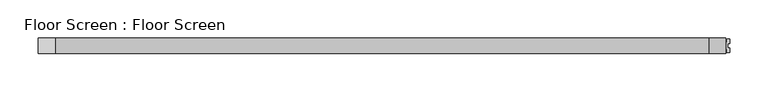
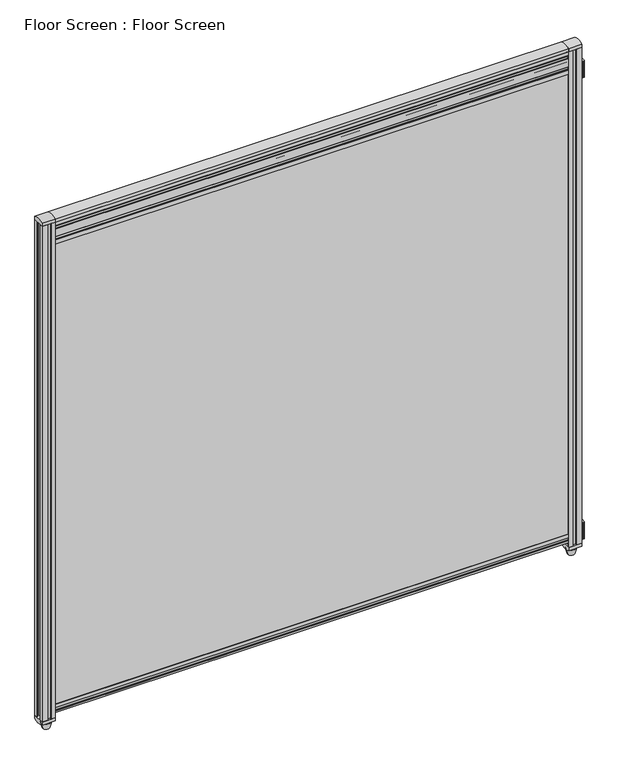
"""IFC4 building model written with IfcOpenShell, lengths in millimetres: furniture geometry, Floor Screen : Floor Screen."""

from ifc_helpers import new_model, si_unit, point, frame, frame_2d, origin, place, context, project, spatial, polyline, circle_curve, trimmed, segment, composite_curve, outline, extrude, source, transform, mapped, element, save
from ifc_brep_helpers import plane_surface, cylinder_surface, revolved_surface, advanced_brep


def floor_screen_floor_screen_8b4445b1(model_context):
    return source(origin(), model_context, "Body", "SolidModel", [
        extrude(outline(polyline([(2.9999997, 851.5000011), (7.4999998, 851.5000011), (7.4999998, 41.0000047), (1.4999993, 41.0000047), (1.4999993, 56.0000021), (-1.5000004, 56.0000021), (-1.5000004, 41.0000047), (-7.5000007, 41.0000047), (-7.5000007, 851.5000011), (-3.0000003, 851.5000011), (-3.0000003, 828.4786457), (2.9999997, 828.4786457), (2.9999997, 851.5000011)])), frame((-427.9999984, 0.0, 0.0), z_axis=(1.0, 0.0, 0.0), x_axis=(0.0, 1.0, 0.0)), (0.0, 0.0, 1.0), 855.9999968),
        advanced_brep(
        [(432.111473, 0.0, 0.0), (443.0885538, 0.0, 0.0), (437.6000134, 0.0, 0.0), (437.6000134, 0.0, 34.0000004), (440.6000134, 0.0, 34.0000004), (434.6000134, 0.0, 34.0000004), (440.6000134, 0.0, 10.9999997), (434.6000134, 0.0, 10.9999997), (446.1000132, 0.0, 10.9999997), (429.1000136, 0.0, 10.9999997)],
        [
            (0, 1, circle_curve(frame((437.6000134, 0.0, 0.0), z_axis=(0.0, 0.0, -1.0), x_axis=(1.0, 0.0, 0.0)), 5.4885404)),
            (1, 2),
            (2, 0),
            (1, 0, circle_curve(frame((437.6000134, 0.0, 0.0), z_axis=(0.0, 0.0, -1.0), x_axis=(1.0, 0.0, 0.0)), 5.4885404)),
            (3, 4),
            (4, 5, circle_curve(frame((437.6000134, 0.0, 34.0000004), z_axis=(0.0, 0.0, 1.0), x_axis=(1.0, 0.0, 0.0)), 3.0)),
            (5, 3),
            (5, 4, circle_curve(frame((437.6000134, 0.0, 34.0000004), z_axis=(0.0, 0.0, 1.0), x_axis=(1.0, 0.0, 0.0)), 3.0)),
            (4, 6),
            (6, 7, circle_curve(frame((437.6000134, 0.0, 10.9999997), z_axis=(0.0, 0.0, 1.0), x_axis=(1.0, 0.0, 0.0)), 3.0)),
            (7, 5),
            (7, 6, circle_curve(frame((437.6000134, 0.0, 10.9999997), z_axis=(0.0, 0.0, 1.0), x_axis=(1.0, 0.0, 0.0)), 3.0)),
            (6, 8),
            (8, 9, circle_curve(frame((437.6000134, 0.0, 10.9999997), z_axis=(0.0, 0.0, 1.0), x_axis=(1.0, 0.0, 0.0)), 8.4999998)),
            (9, 7),
            (9, 8, circle_curve(frame((437.6000134, 0.0, 10.9999997), z_axis=(0.0, 0.0, 1.0), x_axis=(1.0, 0.0, 0.0)), 8.4999998)),
            (8, 1),
            (0, 9),
        ],
        [
            plane_surface(frame((437.6000134, 0.0, 0.0), z_axis=(0.0, 0.0, -1.0), x_axis=(1.0, 0.0, 0.0))),
            plane_surface(frame((437.6000134, 0.0, 34.0000004), z_axis=(0.0, 0.0, 1.0), x_axis=(1.0, 0.0, 0.0))),
            cylinder_surface(frame((437.6000134, 0.0, 34.0000004), z_axis=(0.0, 0.0, 1.0), x_axis=(1.0, 0.0, 0.0)), 3.0),
            plane_surface(frame((437.6000134, 0.0, 10.9999997), z_axis=(0.0, 0.0, 1.0), x_axis=(1.0, 0.0, 0.0))),
            revolved_surface(polyline([(443.0885538, 0.0, 0.0), (446.1000132, 0.0, 10.9999997)]), (437.6000134, 0.0, 34.0000004), (0.0, 0.0, 1.0)),
        ],
        [
            (0, [[1, 2, 3]]),
            (0, [[4, -3, -2]]),
            (1, [[5, 6, 7]]),
            (1, [[-7, 8, -5]]),
            (2, [[-6, 9, 10, 11]]),
            (2, [[-8, -11, 12, -9]]),
            (3, [[-10, 13, 14, 15]]),
            (3, [[-12, -15, 16, -13]]),
            (4, [[-14, 17, -1, 18]]),
            (4, [[-16, -18, -4, -17]]),
        ],
    ),
        advanced_brep(
        [(-437.6000134, 0.0, 0.0), (-443.0885538, 0.0, 0.0), (-432.111473, 0.0, 0.0), (-434.6000134, 0.0, 34.0000004), (-440.6000134, 0.0, 34.0000004), (-437.6000134, 0.0, 34.0000004), (-434.6000134, 0.0, 10.9999997), (-440.6000134, 0.0, 10.9999997), (-429.1000136, 0.0, 10.9999997), (-446.1000132, 0.0, 10.9999997)],
        [
            (0, 1),
            (1, 2, circle_curve(frame((-437.6000134, 0.0, 0.0), z_axis=(0.0, 0.0, -1.0), x_axis=(-1.0, 0.0, 0.0)), 5.4885404)),
            (2, 0),
            (2, 1, circle_curve(frame((-437.6000134, 0.0, 0.0), z_axis=(0.0, 0.0, -1.0), x_axis=(-1.0, 0.0, 0.0)), 5.4885404)),
            (3, 4, circle_curve(frame((-437.6000134, 0.0, 34.0000004), z_axis=(0.0, 0.0, 1.0), x_axis=(-1.0, 0.0, 0.0)), 3.0)),
            (4, 5),
            (5, 3),
            (4, 3, circle_curve(frame((-437.6000134, 0.0, 34.0000004), z_axis=(0.0, 0.0, 1.0), x_axis=(-1.0, 0.0, 0.0)), 3.0)),
            (6, 7, circle_curve(frame((-437.6000134, 0.0, 10.9999997), z_axis=(0.0, 0.0, 1.0), x_axis=(-1.0, 0.0, 0.0)), 3.0)),
            (7, 4),
            (3, 6),
            (7, 6, circle_curve(frame((-437.6000134, 0.0, 10.9999997), z_axis=(0.0, 0.0, 1.0), x_axis=(-1.0, 0.0, 0.0)), 3.0)),
            (8, 9, circle_curve(frame((-437.6000134, 0.0, 10.9999997), z_axis=(0.0, 0.0, 1.0), x_axis=(-1.0, 0.0, 0.0)), 8.4999998)),
            (9, 7),
            (6, 8),
            (9, 8, circle_curve(frame((-437.6000134, 0.0, 10.9999997), z_axis=(0.0, 0.0, 1.0), x_axis=(-1.0, 0.0, 0.0)), 8.4999998)),
            (1, 9),
            (8, 2),
        ],
        [
            plane_surface(frame((-437.6000134, 0.0, 0.0), z_axis=(0.0, 0.0, -1.0), x_axis=(-1.0, 0.0, 0.0))),
            plane_surface(frame((-437.6000134, 0.0, 34.0000004), z_axis=(0.0, 0.0, 1.0), x_axis=(-1.0, 0.0, 0.0))),
            cylinder_surface(frame((-437.6000134, 0.0, 34.0000004), z_axis=(0.0, 0.0, -1.0), x_axis=(-1.0, 0.0, 0.0)), 3.0),
            plane_surface(frame((-437.6000134, 0.0, 10.9999997), z_axis=(0.0, 0.0, 1.0), x_axis=(-1.0, 0.0, 0.0))),
            revolved_surface(polyline([(-446.1000132, 0.0, 10.9999997), (-443.0885538, 0.0, 0.0)]), (-437.6000134, 0.0, 34.0000004), (0.0, 0.0, -1.0)),
        ],
        [
            (0, [[1, 2, 3]]),
            (0, [[-3, 4, -1]]),
            (1, [[5, 6, 7]]),
            (1, [[8, -7, -6]]),
            (2, [[9, 10, -5, 11]]),
            (2, [[12, -11, -8, -10]]),
            (3, [[13, 14, -9, 15]]),
            (3, [[16, -15, -12, -14]]),
            (4, [[-2, 17, -13, 18]]),
            (4, [[-4, -18, -16, -17]]),
        ],
    ),
        extrude(outline(composite_curve([segment(trimmed(circle_curve(frame_2d((454.2241716, -7.9589995)), 0.9758086), [point((455.1999802, -7.9589995))], [point((454.2241716, -8.934808))], False, "CARTESIAN"), True, "CONTINUOUS"), segment(polyline([(454.2241716, -8.934808), (452.4274843, -8.934808)]), True, "CONTINUOUS"), segment(trimmed(circle_curve(frame_2d((452.4274843, -7.9573148)), 0.9774932), [point((452.4274843, -8.934808))], [point((451.449991, -7.9573148))], False, "CARTESIAN"), True, "CONTINUOUS"), segment(polyline([(451.449991, -7.9573148), (451.449991, -4.4500003), (448.5500227, -4.4500003), (448.5500227, -7.9707118)]), True, "CONTINUOUS"), segment(trimmed(circle_curve(frame_2d((447.5859264, -7.9707118)), 0.9640962), [point((448.5500227, -7.9707118))], [point((447.5859264, -8.934808))], False, "CARTESIAN"), True, "CONTINUOUS"), segment(polyline([(447.5859264, -8.934808), (445.7567695, -8.934808)]), True, "CONTINUOUS"), segment(trimmed(circle_curve(frame_2d((445.7567695, -7.9780397)), 0.9567683), [point((445.7567695, -8.934808))], [point((444.8000012, -7.9780397))], False, "CARTESIAN"), True, "CONTINUOUS"), segment(polyline([(444.8000012, -7.9780397), (444.8000012, -3.0000003), (447.2968339, -3.0000003)]), True, "CONTINUOUS"), segment(trimmed(circle_curve(frame_2d((447.2968339, -2.4968383)), 0.5031619), [point((447.2968339, -3.0000003))], [point((447.7999958, -2.4968383))], True, "CARTESIAN"), True, "CONTINUOUS"), segment(polyline([(447.7999958, -2.4968383), (447.7999958, 2.4764125)]), True, "CONTINUOUS"), segment(trimmed(circle_curve(frame_2d((447.2764086, 2.4764125)), 0.5235872), [point((447.7999958, 2.4764125))], [point((447.2764086, 2.9999997))], True, "CARTESIAN"), True, "CONTINUOUS"), segment(polyline([(447.2764086, 2.9999997), (444.8000012, 2.9999997), (444.8000012, 7.9700653)]), True, "CONTINUOUS"), segment(trimmed(circle_curve(frame_2d((445.7647432, 7.9700653)), 0.964742), [point((444.8000012, 7.9700653))], [point((445.7647432, 8.9348073))], False, "CARTESIAN"), True, "CONTINUOUS"), segment(polyline([(445.7647432, 8.9348073), (447.5858723, 8.9348073)]), True, "CONTINUOUS"), segment(trimmed(circle_curve(frame_2d((447.5858723, 7.9706569)), 0.9641504), [point((447.5858723, 8.9348073))], [point((448.5500227, 7.9706569))], False, "CARTESIAN"), True, "CONTINUOUS"), segment(polyline([(448.5500227, 7.9706569), (448.5500227, 4.4499998), (451.449991, 4.4499998), (451.449991, 7.9420424)]), True, "CONTINUOUS"), segment(trimmed(circle_curve(frame_2d((452.442756, 7.9420424)), 0.9927649), [point((451.449991, 7.9420424))], [point((452.442756, 8.9348073))], False, "CARTESIAN"), True, "CONTINUOUS"), segment(polyline([(452.442756, 8.9348073), (454.2102525, 8.9348073)]), True, "CONTINUOUS"), segment(trimmed(circle_curve(frame_2d((454.2102525, 7.9450797)), 0.9897276), [point((454.2102525, 8.9348073))], [point((455.1999802, 7.9450797))], False, "CARTESIAN"), True, "CONTINUOUS"), segment(polyline([(455.1999802, 7.9450797), (455.1999802, 2.9999997), (452.7526237, 2.9999997)]), True, "CONTINUOUS"), segment(trimmed(circle_curve(frame_2d((452.7526237, 2.4473939)), 0.5526058), [point((452.7526237, 2.9999997))], [point((452.2000179, 2.4473939))], True, "CARTESIAN"), True, "CONTINUOUS"), segment(polyline([(452.2000179, 2.4473939), (452.2000179, -2.4754422)]), True, "CONTINUOUS"), segment(trimmed(circle_curve(frame_2d((452.724576, -2.4754422)), 0.524558), [point((452.2000179, -2.4754422))], [point((452.724576, -3.0000003))], True, "CARTESIAN"), True, "CONTINUOUS"), segment(polyline([(452.724576, -3.0000003), (455.1999802, -3.0000003), (455.1999802, -7.9589995)]), True, "CONTINUOUS")], self_intersect=False)), frame((0.0, 0.0, 837.0), z_axis=(0.0, 0.0, 1.0), x_axis=(1.0, 0.0, 0.0)), (0.0, 0.0, 1.0), 29.0),
        extrude(outline(composite_curve([segment(trimmed(circle_curve(frame_2d((454.2241716, -7.9589995)), 0.9758086), [point((455.1999802, -7.9589995))], [point((454.2241716, -8.934808))], False, "CARTESIAN"), True, "CONTINUOUS"), segment(polyline([(454.2241716, -8.934808), (452.4274843, -8.934808)]), True, "CONTINUOUS"), segment(trimmed(circle_curve(frame_2d((452.4274843, -7.9573148)), 0.9774932), [point((452.4274843, -8.934808))], [point((451.449991, -7.9573148))], False, "CARTESIAN"), True, "CONTINUOUS"), segment(polyline([(451.449991, -7.9573148), (451.449991, -4.4500003), (448.5500227, -4.4500003), (448.5500227, -7.9707118)]), True, "CONTINUOUS"), segment(trimmed(circle_curve(frame_2d((447.5859264, -7.9707118)), 0.9640962), [point((448.5500227, -7.9707118))], [point((447.5859264, -8.934808))], False, "CARTESIAN"), True, "CONTINUOUS"), segment(polyline([(447.5859264, -8.934808), (445.7567695, -8.934808)]), True, "CONTINUOUS"), segment(trimmed(circle_curve(frame_2d((445.7567695, -7.9780397)), 0.9567683), [point((445.7567695, -8.934808))], [point((444.8000012, -7.9780397))], False, "CARTESIAN"), True, "CONTINUOUS"), segment(polyline([(444.8000012, -7.9780397), (444.8000012, -3.0000003), (447.2968339, -3.0000003)]), True, "CONTINUOUS"), segment(trimmed(circle_curve(frame_2d((447.2968339, -2.4968383)), 0.5031619), [point((447.2968339, -3.0000003))], [point((447.7999958, -2.4968383))], True, "CARTESIAN"), True, "CONTINUOUS"), segment(polyline([(447.7999958, -2.4968383), (447.7999958, 2.4764125)]), True, "CONTINUOUS"), segment(trimmed(circle_curve(frame_2d((447.2764086, 2.4764125)), 0.5235872), [point((447.7999958, 2.4764125))], [point((447.2764086, 2.9999997))], True, "CARTESIAN"), True, "CONTINUOUS"), segment(polyline([(447.2764086, 2.9999997), (444.8000012, 2.9999997), (444.8000012, 7.9700653)]), True, "CONTINUOUS"), segment(trimmed(circle_curve(frame_2d((445.7647432, 7.9700653)), 0.964742), [point((444.8000012, 7.9700653))], [point((445.7647432, 8.9348073))], False, "CARTESIAN"), True, "CONTINUOUS"), segment(polyline([(445.7647432, 8.9348073), (447.5858723, 8.9348073)]), True, "CONTINUOUS"), segment(trimmed(circle_curve(frame_2d((447.5858723, 7.9706569)), 0.9641504), [point((447.5858723, 8.9348073))], [point((448.5500227, 7.9706569))], False, "CARTESIAN"), True, "CONTINUOUS"), segment(polyline([(448.5500227, 7.9706569), (448.5500227, 4.4499998), (451.449991, 4.4499998), (451.449991, 7.9420424)]), True, "CONTINUOUS"), segment(trimmed(circle_curve(frame_2d((452.442756, 7.9420424)), 0.9927649), [point((451.449991, 7.9420424))], [point((452.442756, 8.9348073))], False, "CARTESIAN"), True, "CONTINUOUS"), segment(polyline([(452.442756, 8.9348073), (454.2102525, 8.9348073)]), True, "CONTINUOUS"), segment(trimmed(circle_curve(frame_2d((454.2102525, 7.9450797)), 0.9897276), [point((454.2102525, 8.9348073))], [point((455.1999802, 7.9450797))], False, "CARTESIAN"), True, "CONTINUOUS"), segment(polyline([(455.1999802, 7.9450797), (455.1999802, 2.9999997), (452.7526237, 2.9999997)]), True, "CONTINUOUS"), segment(trimmed(circle_curve(frame_2d((452.7526237, 2.4473939)), 0.5526058), [point((452.7526237, 2.9999997))], [point((452.2000179, 2.4473939))], True, "CARTESIAN"), True, "CONTINUOUS"), segment(polyline([(452.2000179, 2.4473939), (452.2000179, -2.4754422)]), True, "CONTINUOUS"), segment(trimmed(circle_curve(frame_2d((452.724576, -2.4754422)), 0.524558), [point((452.2000179, -2.4754422))], [point((452.724576, -3.0000003))], True, "CARTESIAN"), True, "CONTINUOUS"), segment(polyline([(452.724576, -3.0000003), (455.1999802, -3.0000003), (455.1999802, -7.9589995)]), True, "CONTINUOUS")], self_intersect=False)), frame((0.0, 0.0, 25.0), z_axis=(0.0, 0.0, 1.0), x_axis=(1.0, 0.0, 0.0)), (0.0, 0.0, 1.0), 29.0),
        extrude(outline(composite_curve([segment(polyline([(9.1499968, 36.0000055), (7.9499769, 36.0000055), (7.9499769, 39.3000176), (2.2528409, 39.3000176)]), True, "CONTINUOUS"), segment(trimmed(circle_curve(frame_2d((0.1077675, 37.4875113)), 2.8082947), [point((2.2528409, 39.3000176))], [point((2.8960112, 37.1525251))], False, "CARTESIAN"), True, "CONTINUOUS"), segment(trimmed(circle_curve(frame_2d((1.9633241, 35.3983957)), 1.9866744), [point((2.8960112, 37.1525251))], [point((3.9499985, 35.3983957))], False, "CARTESIAN"), True, "CONTINUOUS"), segment(polyline([(3.9499985, 35.3983957), (3.9499985, 32.000043)]), True, "CONTINUOUS"), segment(trimmed(circle_curve(frame_2d((0.5724057, 30.1836157)), 3.8350412), [point((3.9499985, 32.000043))], [point((3.7920505, 28.1000063))], False, "CARTESIAN"), True, "CONTINUOUS"), segment(polyline([(3.7920505, 28.1000063), (7.9499769, 28.1000063), (7.9499769, 30.5000165), (9.1499968, 30.5000165), (9.1499968, 27.000003), (2.8499952, 27.000003), (2.8499952, 28.86563)]), True, "CONTINUOUS"), segment(trimmed(circle_curve(frame_2d((0.4891584, 30.1967785)), 2.7102595), [point((2.8499952, 28.86563))], [point((2.7499786, 31.6915022))], True, "CARTESIAN"), True, "CONTINUOUS"), segment(polyline([(2.7499786, 31.6915022), (2.7499786, 35.5623077), (1.1043975, 36.377492)]), True, "CONTINUOUS"), segment(trimmed(circle_curve(frame_2d((-9e-07, 37.5462476)), 1.6080067), [point((1.1043975, 36.377492))], [point((-1.1043986, 36.3774915))], True, "CARTESIAN"), True, "CONTINUOUS"), segment(polyline([(-1.1043986, 36.3774915), (-2.7499786, 35.5623077), (-2.7499786, 31.6915022)]), True, "CONTINUOUS"), segment(trimmed(circle_curve(frame_2d((-0.4891584, 30.1967785)), 2.7102595), [point((-2.7499786, 31.6915022))], [point((-2.8499952, 28.86563))], True, "CARTESIAN"), True, "CONTINUOUS"), segment(polyline([(-2.8499952, 28.86563), (-2.8499952, 27.000003), (-9.1499968, 27.000003), (-9.1499968, 30.5000165), (-7.9499769, 30.5000165), (-7.9499769, 28.1000063), (-3.7920505, 28.1000063)]), True, "CONTINUOUS"), segment(trimmed(circle_curve(frame_2d((-0.5724057, 30.1836157)), 3.8350412), [point((-3.7920505, 28.1000063))], [point((-3.9499985, 32.000043))], False, "CARTESIAN"), True, "CONTINUOUS"), segment(polyline([(-3.9499985, 32.000043), (-3.9499985, 35.3983957)]), True, "CONTINUOUS"), segment(trimmed(circle_curve(frame_2d((-1.9633241, 35.3983957)), 1.9866744), [point((-3.9499985, 35.3983957))], [point((-2.8960112, 37.1525251))], False, "CARTESIAN"), True, "CONTINUOUS"), segment(trimmed(circle_curve(frame_2d((-0.1077675, 37.4875113)), 2.8082947), [point((-2.8960112, 37.1525251))], [point((-2.2528409, 39.3000176))], False, "CARTESIAN"), True, "CONTINUOUS"), segment(polyline([(-2.2528409, 39.3000176), (-7.9499769, 39.3000176), (-7.9499769, 36.0000055), (-9.1499968, 36.0000055), (-9.1499968, 41.7000255), (-7.9499769, 41.7000255), (-7.9499769, 40.5000079), (-0.9999878, 40.5000079), (-0.9999878, 52.4299287)]), True, "CONTINUOUS"), segment(trimmed(circle_curve(frame_2d((-9e-07, 51.8776877)), 1.1423415), [point((-0.9999878, 52.4299287))], [point((0.9999878, 52.4299256))], False, "CARTESIAN"), True, "CONTINUOUS"), segment(polyline([(0.9999878, 52.4299256), (0.9999878, 40.5000079), (7.9499769, 40.5000079), (7.9499769, 41.7000255), (9.1499968, 41.7000255), (9.1499968, 36.0000055)]), True, "CONTINUOUS")], self_intersect=False)), frame((-430.4999775, 0.0, 0.0), z_axis=(1.0, 0.0, 0.0), x_axis=(0.0, 1.0, 0.0)), (0.0, 0.0, 1.0), 860.9999551),
        extrude(outline(composite_curve([segment(polyline([(1.549986, 889.6831947), (1.549986, 892.0), (2.7499991, 892.0), (2.7499991, 890.0358452)]), True, "CONTINUOUS"), segment(trimmed(circle_curve(frame_2d((0.6713989, 888.7794875)), 2.4287884), [point((2.7499991, 890.0358452))], [point((2.57901, 887.2761469))], False, "CARTESIAN"), True, "CONTINUOUS"), segment(polyline([(2.57901, 887.2761469), (2.4052283, 885.6188286)]), True, "CONTINUOUS"), segment(trimmed(circle_curve(frame_2d((1.8024298, 885.5896911)), 0.6035023), [point((2.4052283, 885.6188286))], [point((1.2022181, 885.6526268))], False, "CARTESIAN"), True, "CONTINUOUS"), segment(polyline([(1.2022181, 885.6526268), (1.4276597, 887.8026409)]), True, "CONTINUOUS"), segment(trimmed(circle_curve(frame_2d((0.6111034, 888.8000117)), 1.2889968), [point((1.4276597, 887.8026409))], [point((1.549986, 889.6831947))], True, "CARTESIAN"), True, "CONTINUOUS")], self_intersect=False)), frame((-430.4999775, 0.0, 0.0), z_axis=(1.0, 0.0, 0.0), x_axis=(0.0, 1.0, 0.0)), (0.0, 0.0, 1.0), 860.9999551),
        extrude(outline(composite_curve([segment(trimmed(circle_curve(frame_2d((-0.6111034, 888.8000117)), 1.2889968), [point((-1.549986, 889.6831947))], [point((-1.4276597, 887.8026409))], True, "CARTESIAN"), True, "CONTINUOUS"), segment(polyline([(-1.4276597, 887.8026409), (-1.2022181, 885.6526268)]), True, "CONTINUOUS"), segment(trimmed(circle_curve(frame_2d((-1.8024298, 885.5896911)), 0.6035023), [point((-1.2022181, 885.6526268))], [point((-2.4052283, 885.6188286))], False, "CARTESIAN"), True, "CONTINUOUS"), segment(polyline([(-2.4052283, 885.6188286), (-2.57901, 887.2761469)]), True, "CONTINUOUS"), segment(trimmed(circle_curve(frame_2d((-0.6713989, 888.7794875)), 2.4287884), [point((-2.57901, 887.2761469))], [point((-2.7499991, 890.0358452))], False, "CARTESIAN"), True, "CONTINUOUS"), segment(polyline([(-2.7499991, 890.0358452), (-2.7499991, 892.0), (-1.549986, 892.0), (-1.549986, 889.6831947)]), True, "CONTINUOUS")], self_intersect=False)), frame((-430.4999775, 0.0, 0.0), z_axis=(1.0, 0.0, 0.0), x_axis=(0.0, 1.0, 0.0)), (0.0, 0.0, 1.0), 860.9999551),
        extrude(outline(composite_curve([segment(polyline([(7.8000076, 885.0000504), (7.8000076, 890.8000597), (4.5999997, 890.8000597), (4.5999997, 886.1642962), (3.3238569, 883.9538933), (2.4222393, 882.2511629)]), True, "CONTINUOUS"), segment(trimmed(circle_curve(frame_2d((0.0, 880.4942518)), 2.9923201), [point((2.4222393, 882.2511629))], [point((1.0260604, 877.683348))], False, "CARTESIAN"), True, "CONTINUOUS"), segment(polyline([(1.0260604, 877.683348), (1.0260604, 872.7500713), (7.8000076, 872.7500713), (7.8000076, 879.0000532), (9.0000082, 879.0000532), (9.0000082, 865.0000357), (7.8000076, 865.0000357), (7.8000076, 871.2500175), (1.0260604, 871.2500175), (1.0260604, 866.3191412)]), True, "CONTINUOUS"), segment(trimmed(circle_curve(frame_2d((0.0, 863.5073141)), 2.9931876), [point((1.0260604, 866.3191412))], [point((2.4222393, 861.748926))], False, "CARTESIAN"), True, "CONTINUOUS"), segment(polyline([(2.4222393, 861.748926), (3.3238569, 860.0461956), (4.5999997, 857.8357927), (4.5999997, 853.2000292), (7.8000076, 853.2000292), (7.8000076, 859.0000385), (9.0000082, 859.0000385), (9.0000082, 852.0000298), (3.3999991, 852.0000298), (3.3999991, 857.5143007), (2.5421924, 859.0000385), (1.7271089, 859.0000385), (1.1490657, 862.5358692)]), True, "CONTINUOUS"), segment(trimmed(circle_curve(frame_2d((0.0, 863.5074601)), 1.5047727), [point((1.1490657, 862.5358692))], [point((-1.1490657, 862.5358692))], True, "CARTESIAN"), True, "CONTINUOUS"), segment(polyline([(-1.1490657, 862.5358692), (-1.7271089, 859.0000385), (-2.5421924, 859.0000385), (-3.3999991, 857.5143007), (-3.3999991, 852.0000298), (-9.0000082, 852.0000298), (-9.0000082, 859.0000385), (-7.8000076, 859.0000385), (-7.8000076, 853.2000292), (-4.5999997, 853.2000292), (-4.5999997, 857.8357927), (-3.3238569, 860.0461956), (-2.4222393, 861.748926)]), True, "CONTINUOUS"), segment(trimmed(circle_curve(frame_2d((0.0, 863.5073141)), 2.9931876), [point((-2.4222393, 861.748926))], [point((-1.0000003, 866.3285144))], False, "CARTESIAN"), True, "CONTINUOUS"), segment(polyline([(-1.0000003, 866.3285144), (-1.0000003, 871.2500175), (-7.8000091, 871.2500175), (-7.8000091, 865.0000357), (-9.0000091, 865.0000357), (-9.0000091, 879.0000532), (-7.8000091, 879.0000532), (-7.8000091, 872.7500713), (-1.0000003, 872.7500713), (-1.0000003, 877.6739718)]), True, "CONTINUOUS"), segment(trimmed(circle_curve(frame_2d((0.0, 880.4942518)), 2.9923201), [point((-1.0000003, 877.6739718))], [point((-2.4222393, 882.2511629))], False, "CARTESIAN"), True, "CONTINUOUS"), segment(polyline([(-2.4222393, 882.2511629), (-3.3238569, 883.9538933), (-4.5999997, 886.1642962), (-4.5999997, 890.8000597), (-7.8000076, 890.8000597), (-7.8000076, 885.0000504), (-9.0000082, 885.0000504), (-9.0000082, 892.0), (-3.3999991, 892.0), (-3.3999991, 886.4857882), (-2.5421924, 885.0000504), (-1.7271089, 885.0000504), (-1.0656179, 881.5476448)]), True, "CONTINUOUS"), segment(trimmed(circle_curve(frame_2d((0.0, 880.4966596)), 1.4967002), [point((-1.0656179, 881.5476448))], [point((1.0656179, 881.5476448))], True, "CARTESIAN"), True, "CONTINUOUS"), segment(polyline([(1.0656179, 881.5476448), (1.7271089, 885.0000504), (2.5421924, 885.0000504), (3.3999991, 886.4857882), (3.3999991, 892.0), (9.0000082, 892.0), (9.0000082, 885.0000504), (7.8000076, 885.0000504)]), True, "CONTINUOUS")], self_intersect=False)), frame((-430.4999775, 0.0, 0.0), z_axis=(1.0, 0.0, 0.0), x_axis=(0.0, 1.0, 0.0)), (0.0, 0.0, 1.0), 860.9999551),
        extrude(outline(composite_curve([segment(polyline([(10.2500284, 897.328644), (10.2500284, 892.0), (-10.2500284, 892.0), (-10.2500284, 897.328644)]), True, "CONTINUOUS"), segment(trimmed(circle_curve(frame_2d((0.0, 878.9995742)), 21.0004258), [point((-10.2500284, 897.328644))], [point((10.2500284, 897.328644))], False, "CARTESIAN"), True, "CONTINUOUS")], self_intersect=False)), frame((-450.0, 0.0, 0.0), z_axis=(1.0, 0.0, 0.0), x_axis=(0.0, 1.0, 0.0)), (0.0, 0.0, 1.0), 22.0000016),
        extrude(outline(composite_curve([segment(trimmed(circle_curve(frame_2d((0.0, 32.0004277)), 21.0004258), [point((10.2500284, 13.6713579))], [point((-10.2500284, 13.6713579))], False, "CARTESIAN"), True, "CONTINUOUS"), segment(polyline([(-10.2500284, 13.6713579), (-10.2500284, 19.0000019), (10.2500284, 19.0000019), (10.2500284, 13.6713579)]), True, "CONTINUOUS")], self_intersect=False)), frame((-450.0, 0.0, 0.0), z_axis=(1.0, 0.0, 0.0), x_axis=(0.0, 1.0, 0.0)), (0.0, 0.0, 1.0), 22.0000016),
        extrude(outline(composite_curve([segment(polyline([(10.2500284, 897.328644), (10.2500284, 892.0), (-10.2500284, 892.0), (-10.2500284, 897.328644)]), True, "CONTINUOUS"), segment(trimmed(circle_curve(frame_2d((0.0, 878.9995742)), 21.0004258), [point((-10.2500284, 897.328644))], [point((10.2500284, 897.328644))], False, "CARTESIAN"), True, "CONTINUOUS")], self_intersect=False)), frame((427.9999984, 0.0, 0.0), z_axis=(1.0, 0.0, 0.0), x_axis=(0.0, 1.0, 0.0)), (0.0, 0.0, 1.0), 22.0000016),
        extrude(outline(composite_curve([segment(trimmed(circle_curve(frame_2d((0.0, 32.0004277)), 21.0004258), [point((10.2500284, 13.6713579))], [point((-10.2500284, 13.6713579))], False, "CARTESIAN"), True, "CONTINUOUS"), segment(polyline([(-10.2500284, 13.6713579), (-10.2500284, 19.0000019), (10.2500284, 19.0000019), (10.2500284, 13.6713579)]), True, "CONTINUOUS")], self_intersect=False)), frame((427.9999984, 0.0, 0.0), z_axis=(1.0, 0.0, 0.0), x_axis=(0.0, 1.0, 0.0)), (0.0, 0.0, 1.0), 22.0000016),
        extrude(outline(composite_curve([segment(polyline([(-10.2500284, 892.0), (-10.2500284, 897.328644)]), True, "CONTINUOUS"), segment(trimmed(circle_curve(frame_2d((0.0, 878.9995742)), 21.0004258), [point((-10.2500284, 897.328644))], [point((10.2500284, 897.328644))], False, "CARTESIAN"), True, "CONTINUOUS"), segment(polyline([(10.2500284, 897.328644), (10.2500284, 892.0), (-10.2500284, 892.0)]), True, "CONTINUOUS")], self_intersect=False), holes=[composite_curve([segment(polyline([(-9.0499809, 893.2000586), (9.0499802, 893.2000586), (9.0499802, 896.6108242)]), True, "CONTINUOUS"), segment(trimmed(circle_curve(frame_2d((-4e-07, 878.9993192)), 19.8006883), [point((9.0499802, 896.6108242))], [point((-9.0499809, 896.6108242))], True, "CARTESIAN"), True, "CONTINUOUS"), segment(polyline([(-9.0499809, 896.6108242), (-9.0499809, 893.2000586)]), True, "CONTINUOUS")], self_intersect=False)]), frame((-427.9999984, 0.0, 0.0), z_axis=(1.0, 0.0, 0.0), x_axis=(0.0, 1.0, 0.0)), (0.0, 0.0, 1.0), 855.9999968),
        extrude(outline(polyline([(-443.5500127, 8.750011), (-440.950013, 8.750011), (-440.950013, 7.1000106), (-434.6500001, 7.1000106), (-434.6500001, 8.750011), (-432.0500123, 8.750011), (-432.0500123, 5.7500124), (-443.5500127, 5.7500124), (-443.5500127, 8.750011)])), frame((0.0, 0.0, 19.0000019), z_axis=(0.0, 0.0, 1.0), x_axis=(1.0, 0.0, 0.0)), (0.0, 0.0, 1.0), 872.9999981),
        extrude(outline(polyline([(-443.5500127, -8.750011), (-443.5500127, -5.7500124), (-432.0500123, -5.7500124), (-432.0500123, -8.750011), (-434.6500001, -8.750011), (-434.6500001, -7.1000106), (-440.950013, -7.1000106), (-440.950013, -8.750011), (-443.5500127, -8.750011)])), frame((0.0, 0.0, 19.0000019), z_axis=(0.0, 0.0, 1.0), x_axis=(1.0, 0.0, 0.0)), (0.0, 0.0, 1.0), 872.9999981),
        extrude(outline(polyline([(443.5500127, 8.750011), (443.5500127, 5.7500124), (432.0500123, 5.7500124), (432.0500123, 8.750011), (434.6500001, 8.750011), (434.6500001, 7.1000106), (440.950013, 7.1000106), (440.950013, 8.750011), (443.5500127, 8.750011)])), frame((0.0, 0.0, 19.0000019), z_axis=(0.0, 0.0, 1.0), x_axis=(1.0, 0.0, 0.0)), (0.0, 0.0, 1.0), 872.9999981),
        extrude(outline(polyline([(443.5500127, -8.750011), (440.950013, -8.750011), (440.950013, -7.1000106), (434.6500001, -7.1000106), (434.6500001, -8.750011), (432.0500123, -8.750011), (432.0500123, -5.7500124), (443.5500127, -5.7500124), (443.5500127, -8.750011)])), frame((0.0, 0.0, 19.0000019), z_axis=(0.0, 0.0, 1.0), x_axis=(1.0, 0.0, 0.0)), (0.0, 0.0, 1.0), 872.9999981),
        extrude(outline(polyline([(-450.0, 10.2500284), (-440.500003, 10.2500284), (-440.500003, 9.0499961), (-443.6000108, 9.0499961), (-443.6000108, 5.7500124), (-431.9999938, 5.7500124), (-431.9999938, 9.0499961), (-435.000014, 9.0499961), (-435.000014, 10.2500284), (-427.9999984, 10.2500284), (-427.9999984, 9.0499961), (-430.8000023, 9.0499961), (-430.8000023, -9.0499985), (-427.9999984, -9.0499985), (-427.9999984, -10.2500284), (-435.000014, -10.2500284), (-435.000014, -9.0499985), (-431.9999938, -9.0499985), (-431.9999938, -5.7500132), (-443.6000108, -5.7500132), (-443.6000108, -9.0499985), (-440.500003, -9.0499985), (-440.500003, -10.2500284), (-450.0, -10.2500284), (-450.0, -4.8000011), (-448.8000095, -4.8000011), (-448.8000095, -9.0499985), (-444.8000012, -9.0499985), (-444.8000012, 9.0499961), (-448.8000095, 9.0499961), (-448.8000095, 4.8), (-450.0, 4.8), (-450.0, 10.2500284)])), frame((0.0, 0.0, 19.0000019), z_axis=(0.0, 0.0, 1.0), x_axis=(1.0, 0.0, 0.0)), (0.0, 0.0, 1.0), 872.9999981),
        extrude(outline(polyline([(450.0, 10.2500284), (450.0, 4.8), (448.8000095, 4.8), (448.8000095, 9.0499961), (444.8000012, 9.0499961), (444.8000012, -9.0499985), (448.8000095, -9.0499985), (448.8000095, -4.8000011), (450.0, -4.8000011), (450.0, -10.2500284), (440.500003, -10.2500284), (440.500003, -9.0499985), (443.6000108, -9.0499985), (443.6000108, -5.7500132), (431.9999938, -5.7500132), (431.9999938, -9.0499985), (435.000014, -9.0499985), (435.000014, -10.2500284), (427.9999984, -10.2500284), (427.9999984, -9.0499985), (430.800016, -9.0499985), (430.800016, 9.0499961), (427.9999984, 9.0499961), (427.9999984, 10.2500284), (435.000014, 10.2500284), (435.000014, 9.0499961), (431.9999938, 9.0499961), (431.9999938, 5.7500124), (443.6000108, 5.7500124), (443.6000108, 9.0499961), (440.500003, 9.0499961), (440.500003, 10.2500284), (450.0, 10.2500284)])), frame((0.0, 0.0, 19.0000019), z_axis=(0.0, 0.0, 1.0), x_axis=(1.0, 0.0, 0.0)), (0.0, 0.0, 1.0), 872.9999981),
    ])


if __name__ == "__main__":
    model = new_model("IFC4")
    model_context = context("Model", 3, world=origin())
    ifc_project = project(units=[si_unit("LENGTHUNIT", "METRE", prefix="MILLI")], contexts=[model_context])
    site = spatial("IfcSite", under=ifc_project)
    building = spatial("IfcBuilding", under=site)
    placement = place(None, origin())
    floor_screen_floor_screen_shape = floor_screen_floor_screen_8b4445b1(model_context)
    element("IfcFurniture", 1, ObjectType="Floor Screen : Floor Screen", at=placement, inside=building, context=model_context, shape_type="MappedRepresentation", body=[
        mapped(floor_screen_floor_screen_shape, transform((0.0, 0.0, 0.0), x_axis=(1.0, 0.0, 0.0), y_axis=(0.0, 1.0, 0.0), z_axis=(0.0, 0.0, 1.0))),
    ])
    save(model, "model.ifc")
